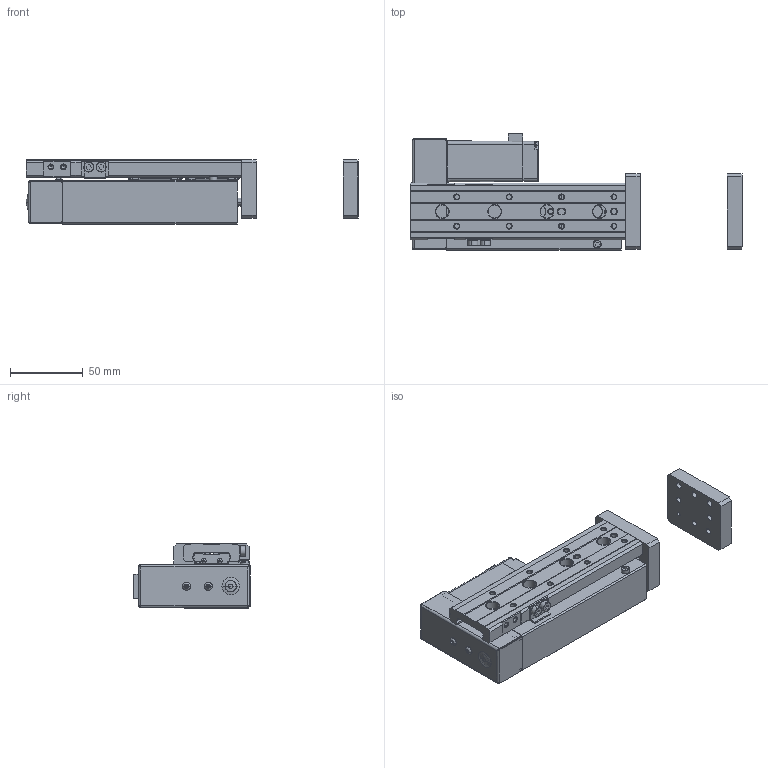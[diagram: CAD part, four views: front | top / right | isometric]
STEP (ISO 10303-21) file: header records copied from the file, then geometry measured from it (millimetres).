
FILE_DESCRIPTION (( 'STEP AP203' ), '1' );
FILE_NAME ('CSS12R-xx-70-xx-CSO-xx-xx.STEP', '2024-10-18T06:36:49', ( 'Windows User' ), ( 'P R C' ), 'SwSTEP 2.0', 'SolidWorks 2018', '' );
FILE_SCHEMA (( 'CONFIG_CONTROL_DESIGN' ));
Length unit declared in the file: millimetre
Products named in the file (16): 复件 COVER END^SS12R-1.5-70（客用）; CSS12R-xx-70-xx-CSO-xx-xx; 复件 RB-ES23002-P001-09  FRAME（右折，ST=70）^SS12R-1.5-70（客用）; 复件 内六角杯头螺钉M3-6^SS12R-1.5-70（客用）; 复件 (2) 28闭环步进电机-客用3D^SS12R-1.5-70（客用）; 复件 RB-ES23002-P007-01  限位块^SS12R-1.5-70（客用）; 复件 SVS-23RB12SL-B010  堵头塞子（φ8宽边带槽型）^SS12R-1.5-70（客用）; 复件 内六角圆头螺钉M3^SS12R-1.5-70（客用）; 复件 MOTOR PLATE^SS12R-1.5-70（客用）; 复件 十字槽盘头螺钉YM3-6^SS12R-1.5-70（客用）; 复件 RB-ES23002-B002-04  RAIL（MXQ12-75-滑台）^SS12R-1.5-70（客用）; 复件 RB-ES23002-B002-05  BLOCK（MXQ12-75,100滑块）^SS12R-1.5-70（客用）; 复件 内六角杯头螺钉M4-12^SS12R-1.5-70（客用）; 复件 内六角杯头螺钉M4-10^SS12R-1.5-70（客用）; 复件 RB-ES23002-P002-02  安装板（右折）^SS12R-1.5-70（客用）; 复件 内六角杯头螺钉M4-8^SS12R-1.5-70（客用）
Assembly tree (21 placements, depth 2):
  CSS12R-xx-70-xx-CSO-xx-xx
    复件 RB-ES23002-P001-09  FRAME（右折，ST=70）^SS12R-1.5-70（客用）
    复件 RB-ES23002-P002-02  安装板（右折）^SS12R-1.5-70（客用）  x2
    复件 RB-ES23002-P007-01  限位块^SS12R-1.5-70（客用）
    复件 RB-ES23002-B002-04  RAIL（MXQ12-75-滑台）^SS12R-1.5-70（客用）
    复件 RB-ES23002-B002-05  BLOCK（MXQ12-75,100滑块）^SS12R-1.5-70（客用）  x2
    复件 内六角杯头螺钉M4-12^SS12R-1.5-70（客用）  x2
    复件 内六角杯头螺钉M4-10^SS12R-1.5-70（客用）
    复件 十字槽盘头螺钉YM3-6^SS12R-1.5-70（客用）
    复件 内六角杯头螺钉M4-8^SS12R-1.5-70（客用）  x2
    复件 内六角杯头螺钉M3-6^SS12R-1.5-70（客用）  x2
    复件 SVS-23RB12SL-B010  堵头塞子（φ8宽边带槽型）^SS12R-1.5-70（客用）
    复件 (2) 28闭环步进电机-客用3D^SS12R-1.5-70（客用）
    复件 COVER END^SS12R-1.5-70（客用）
    复件 MOTOR PLATE^SS12R-1.5-70（客用）
    复件 内六角圆头螺钉M3^SS12R-1.5-70（客用）  x2
Bounding box: 228.15 x 79.95 x 44 mm (x, y, z)
Volume: 320987.9 mm3; surface area: 97233.5 mm2
Topology: 83 solids, 83 shells, 1843 faces, 4666 edges, 2805 vertices
Faces by surface type: plane 819, cylinder 502, cone 336, bspline 146, torus 34, sphere 6
Entity records: 37883 total; most frequent: CARTESIAN_POINT 8586, DIRECTION 5798, ORIENTED_EDGE 5600, EDGE_CURVE 2800, AXIS2_PLACEMENT_3D 2092, VERTEX_POINT 1781, LINE 1614, VECTOR 1614
